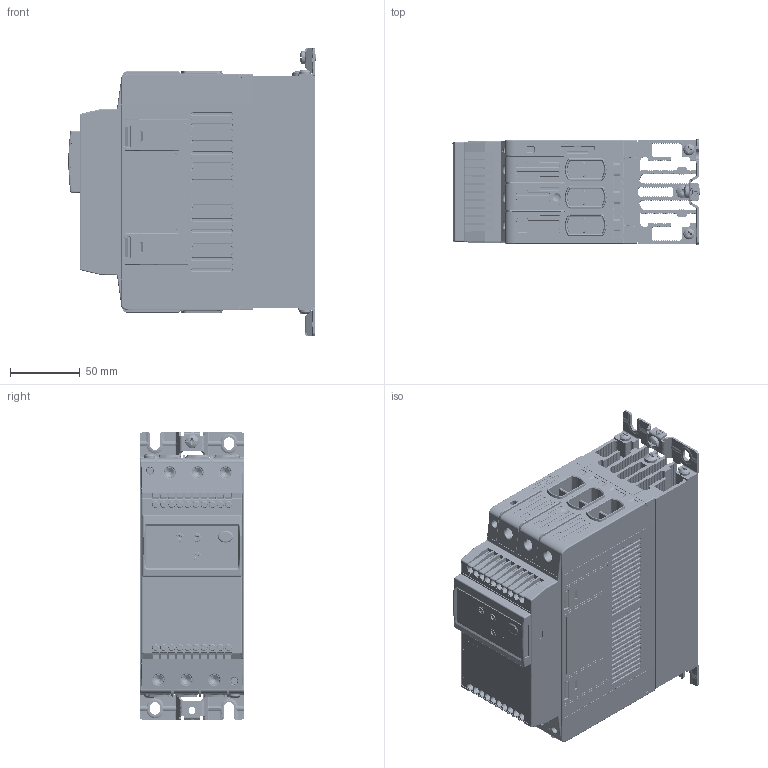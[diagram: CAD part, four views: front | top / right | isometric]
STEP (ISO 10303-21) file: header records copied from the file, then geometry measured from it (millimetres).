
FILE_DESCRIPTION((''),'2;1');
FILE_NAME('CGI1296-00-3D.stp','2016-05-16T10:59:41',(''),(''),'Mechanical Desktop 2011','Mechanical Desktop 2011',', , ');
FILE_SCHEMA(('CONFIG_CONTROL_DESIGN'));
Length unit declared in the file: millimetre
Products named in the file (2): Product; CGI1296-00-3D
Assembly tree (1 placements, depth 2):
  Product
    CGI1296-00-3D
Bounding box: 177.42 x 75.2 x 206 mm (x, y, z)
Volume: 1672712.7 mm3; surface area: 298716.8 mm2
Topology: 3 solids, 9 shells, 34980 faces, 102294 edges, 67740 vertices
Faces by surface type: plane 29842, bspline 2818, cylinder 1960, cone 164, torus 132, sphere 64
Entity records: 1240358 total; most frequent: CARTESIAN_POINT 318377, ORIENTED_EDGE 204416, DIRECTION 172494, EDGE_CURVE 102208, VECTOR 93302, LINE 93302, VERTEX_POINT 67738, AXIS2_PLACEMENT_3D 39596
